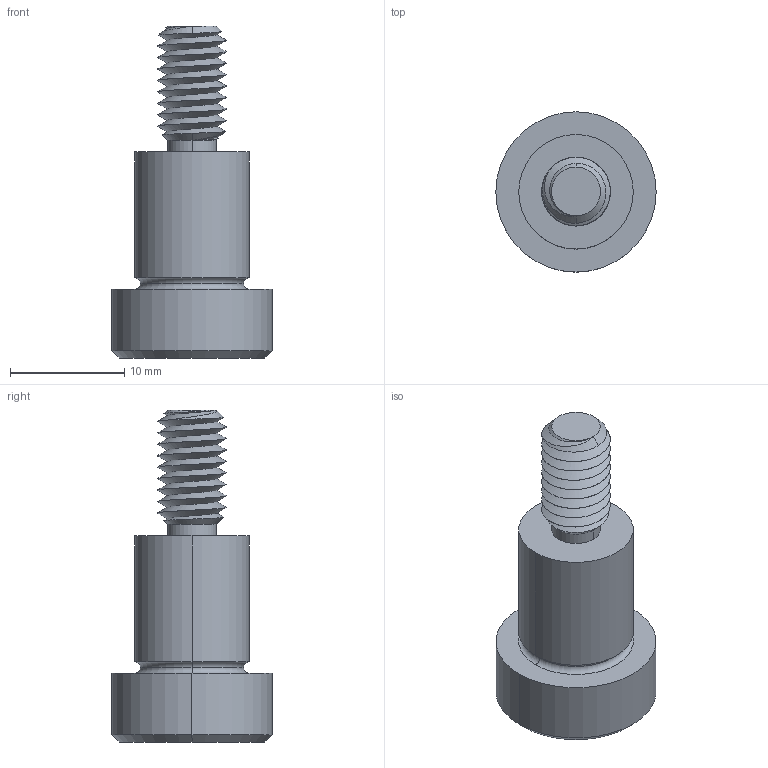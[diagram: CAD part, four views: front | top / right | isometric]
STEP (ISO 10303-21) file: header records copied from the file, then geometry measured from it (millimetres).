
FILE_DESCRIPTION (( 'STEP AP203' ), '1' );
FILE_NAME ('P0130.100-012-B6.step', '2021-11-09T21:48:17', ( '' ), ( '' ), 'SwSTEP 2.0', 'SolidWorks 2019', '' );
FILE_SCHEMA (( 'CONFIG_CONTROL_DESIGN' ));
Length unit declared in the file: millimetre
Products named in the file (1): P0130.100-012-B6
Bounding box: 14 x 14 x 29 mm (x, y, z)
Volume: 2007.3 mm3; surface area: 1327.6 mm2
Topology: 1 solids, 1 shells, 60 faces, 142 edges, 85 vertices
Faces by surface type: cylinder 24, plane 16, cone 14, torus 4, bspline 2
Entity records: 4245 total; most frequent: CARTESIAN_POINT 2899, ORIENTED_EDGE 280, DIRECTION 247, EDGE_CURVE 140, AXIS2_PLACEMENT_3D 99, VERTEX_POINT 85, EDGE_LOOP 63, FACE_OUTER_BOUND 60
